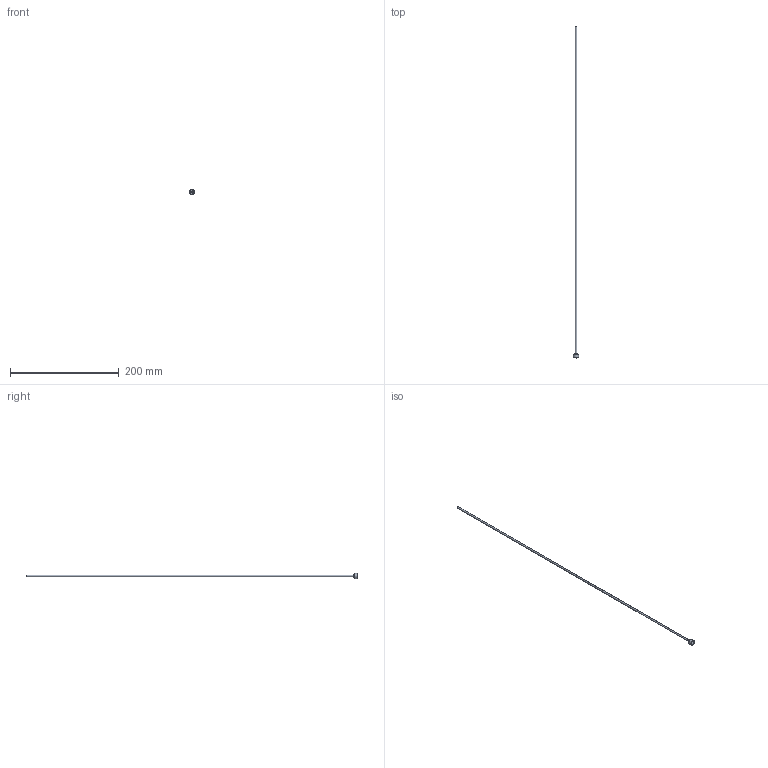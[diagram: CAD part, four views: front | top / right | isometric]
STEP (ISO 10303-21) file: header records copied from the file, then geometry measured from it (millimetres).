
FILE_DESCRIPTION(/* description */ (''),/* implementation_level */ '2;1');
FILE_NAME(/* name */ 'C:/Users/drich/Desktop/PT18-125-24 v2.step',/* time_stamp */ '2019-12-27T15:42:26-06:00',/* author */ (''),/* organization */ (''),/* preprocessor_version */ 'ST-DEVELOPER v18',/* originating_system */ 'Autodesk Translation Framework v8.12.0.6',/* authorisation */ '');
FILE_SCHEMA (('AUTOMOTIVE_DESIGN { 1 0 10303 214 3 1 1 }'));
Length unit declared in the file: inch
Products named in the file (1): PT18-125-24
Bounding box: 9.62 x 609.6 x 9.62 mm (x, y, z)
Volume: 1454.4 mm3; surface area: 11629.1 mm2
Topology: 1 solids, 1 shells, 19 faces, 48 edges, 34 vertices
Faces by surface type: plane 11, cylinder 4, torus 2, cone 2
Full cylindrical faces by diameter (mm): 2.769 x1, 3.15 x1, 5.156 x1, 9.621 x1
Entity records: 633 total; most frequent: DIRECTION 112, CARTESIAN_POINT 102, ORIENTED_EDGE 96, EDGE_CURVE 48, AXIS2_PLACEMENT_3D 44, VERTEX_POINT 34, CIRCLE 24, EDGE_LOOP 24
